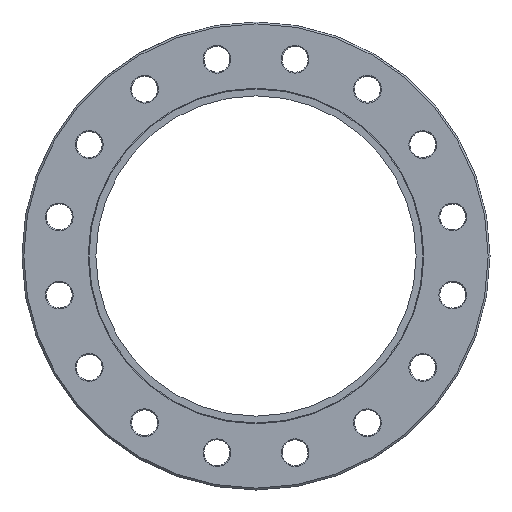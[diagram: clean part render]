
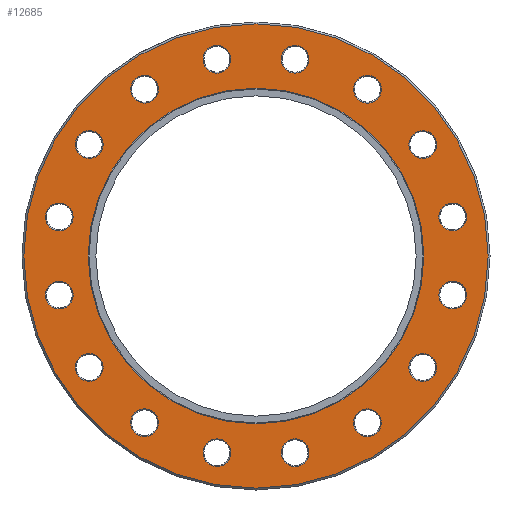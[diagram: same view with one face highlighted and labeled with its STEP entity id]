
A CAD part, left-side view. The second image highlights one B-rep face of the part: STEP entity #12685.
In plain terms, the highlighted planar face has unit normal (-1, 0, 0).
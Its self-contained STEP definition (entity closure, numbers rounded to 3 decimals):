
#12447=CARTESIAN_POINT('',(-20.,75.4,0.));
#12448=VERTEX_POINT('',#12447);
#12449=CARTESIAN_POINT('',(-20.,0.,0.0));
#12450=DIRECTION('',(1.0,0.0,0.0));
#12451=DIRECTION('',(0.0,-1.0,0.0));
#12452=AXIS2_PLACEMENT_3D('',#12449,#12450,#12451);
#12453=CIRCLE('',#12452,75.4);
#12454=EDGE_CURVE('',#12448,#12448,#12453,.T.);
#12490=CARTESIAN_POINT('',(-20.,65.25,0.0));
#12491=DIRECTION('',(-1.0,0.0,0.0));
#12492=DIRECTION('',(0.0,0.0,1.0));
#12493=AXIS2_PLACEMENT_3D('',#12490,#12491,#12492);
#12494=PLANE('',#12493);
#12495=ORIENTED_EDGE('',*,*,#12454,.F.);
#12496=EDGE_LOOP('',(#12495));
#12497=FACE_OUTER_BOUND('',#12496,.T.);
#12498=CARTESIAN_POINT('',(-20.,55.892,-32.038));
#12499=VERTEX_POINT('',#12498);
#12500=CARTESIAN_POINT('',(-20.,54.17,-36.195));
#12501=DIRECTION('',(-1.,0.,0.));
#12502=DIRECTION('',(0.,-0.383,-0.924));
#12503=AXIS2_PLACEMENT_3D('',#12500,#12501,#12502);
#12504=CIRCLE('',#12503,4.5);
#12505=EDGE_CURVE('',#12499,#12499,#12504,.T.);
#12506=ORIENTED_EDGE('',*,*,#12505,.F.);
#12507=EDGE_LOOP('',(#12506));
#12508=FACE_BOUND('',#12507,.T.);
#12509=CARTESIAN_POINT('',(-20.,16.868,-62.176));
#12510=VERTEX_POINT('',#12509);
#12511=CARTESIAN_POINT('',(-20.,12.71,-63.898));
#12512=DIRECTION('',(-1.,0.,0.));
#12513=DIRECTION('',(0.,-0.924,-0.383));
#12514=AXIS2_PLACEMENT_3D('',#12511,#12512,#12513);
#12515=CIRCLE('',#12514,4.5);
#12516=EDGE_CURVE('',#12510,#12510,#12515,.T.);
#12517=ORIENTED_EDGE('',*,*,#12516,.F.);
#12518=EDGE_LOOP('',(#12517));
#12519=FACE_BOUND('',#12518,.T.);
#12520=CARTESIAN_POINT('',(-20.,-32.038,-55.892));
#12521=VERTEX_POINT('',#12520);
#12522=CARTESIAN_POINT('',(-20.,-36.195,-54.17));
#12523=DIRECTION('',(-1.,0.,0.));
#12524=DIRECTION('',(0.,-0.924,0.383));
#12525=AXIS2_PLACEMENT_3D('',#12522,#12523,#12524);
#12526=CIRCLE('',#12525,4.5);
#12527=EDGE_CURVE('',#12521,#12521,#12526,.T.);
#12528=ORIENTED_EDGE('',*,*,#12527,.F.);
#12529=EDGE_LOOP('',(#12528));
#12530=FACE_BOUND('',#12529,.T.);
#12531=CARTESIAN_POINT('',(-20.,-62.176,-16.868));
#12532=VERTEX_POINT('',#12531);
#12533=CARTESIAN_POINT('',(-20.,-63.898,-12.71));
#12534=DIRECTION('',(-1.,0.,0.));
#12535=DIRECTION('',(0.,-0.383,0.924));
#12536=AXIS2_PLACEMENT_3D('',#12533,#12534,#12535);
#12537=CIRCLE('',#12536,4.5);
#12538=EDGE_CURVE('',#12532,#12532,#12537,.T.);
#12539=ORIENTED_EDGE('',*,*,#12538,.F.);
#12540=EDGE_LOOP('',(#12539));
#12541=FACE_BOUND('',#12540,.T.);
#12542=CARTESIAN_POINT('',(-20.,-55.892,32.038));
#12543=VERTEX_POINT('',#12542);
#12544=CARTESIAN_POINT('',(-20.,-54.17,36.195));
#12545=DIRECTION('',(-1.0,0.,0.));
#12546=DIRECTION('',(0.,0.383,0.924));
#12547=AXIS2_PLACEMENT_3D('',#12544,#12545,#12546);
#12548=CIRCLE('',#12547,4.5);
#12549=EDGE_CURVE('',#12543,#12543,#12548,.T.);
#12550=ORIENTED_EDGE('',*,*,#12549,.F.);
#12551=EDGE_LOOP('',(#12550));
#12552=FACE_BOUND('',#12551,.T.);
#12553=CARTESIAN_POINT('',(-20.0,-16.868,62.176));
#12554=VERTEX_POINT('',#12553);
#12555=CARTESIAN_POINT('',(-20.0,-12.71,63.898));
#12556=DIRECTION('',(-1.0,0.,0.));
#12557=DIRECTION('',(0.,0.924,0.383));
#12558=AXIS2_PLACEMENT_3D('',#12555,#12556,#12557);
#12559=CIRCLE('',#12558,4.5);
#12560=EDGE_CURVE('',#12554,#12554,#12559,.T.);
#12561=ORIENTED_EDGE('',*,*,#12560,.F.);
#12562=EDGE_LOOP('',(#12561));
#12563=FACE_BOUND('',#12562,.T.);
#12564=CARTESIAN_POINT('',(-20.,32.038,55.892));
#12565=VERTEX_POINT('',#12564);
#12566=CARTESIAN_POINT('',(-20.,36.195,54.17));
#12567=DIRECTION('',(-1.0,0.,0.));
#12568=DIRECTION('',(0.,0.924,-0.383));
#12569=AXIS2_PLACEMENT_3D('',#12566,#12567,#12568);
#12570=CIRCLE('',#12569,4.5);
#12571=EDGE_CURVE('',#12565,#12565,#12570,.T.);
#12572=ORIENTED_EDGE('',*,*,#12571,.F.);
#12573=EDGE_LOOP('',(#12572));
#12574=FACE_BOUND('',#12573,.T.);
#12575=CARTESIAN_POINT('',(-20.,62.176,16.868));
#12576=VERTEX_POINT('',#12575);
#12577=CARTESIAN_POINT('',(-20.,63.898,12.71));
#12578=DIRECTION('',(-1.,0.,0.));
#12579=DIRECTION('',(0.,0.383,-0.924));
#12580=AXIS2_PLACEMENT_3D('',#12577,#12578,#12579);
#12581=CIRCLE('',#12580,4.5);
#12582=EDGE_CURVE('',#12576,#12576,#12581,.T.);
#12583=ORIENTED_EDGE('',*,*,#12582,.F.);
#12584=EDGE_LOOP('',(#12583));
#12585=FACE_BOUND('',#12584,.T.);
#12586=CARTESIAN_POINT('',(-20.,54.5,0.0));
#12587=VERTEX_POINT('',#12586);
#12588=CARTESIAN_POINT('',(-20.,0.,0.0));
#12589=DIRECTION('',(1.0,0.0,0.0));
#12590=DIRECTION('',(0.0,1.0,0.0));
#12591=AXIS2_PLACEMENT_3D('',#12588,#12589,#12590);
#12592=CIRCLE('',#12591,54.5);
#12593=EDGE_CURVE('',#12587,#12587,#12592,.T.);
#12594=ORIENTED_EDGE('',*,*,#12593,.T.);
#12595=EDGE_LOOP('',(#12594));
#12596=FACE_BOUND('',#12595,.T.);
#12597=CARTESIAN_POINT('',(-20.,63.898,-8.21));
#12598=VERTEX_POINT('',#12597);
#12599=CARTESIAN_POINT('',(-20.,63.898,-12.71));
#12600=DIRECTION('',(-1.0,0.0,0.0));
#12601=DIRECTION('',(0.0,0.0,-1.0));
#12602=AXIS2_PLACEMENT_3D('',#12599,#12600,#12601);
#12603=CIRCLE('',#12602,4.5);
#12604=EDGE_CURVE('',#12598,#12598,#12603,.T.);
#12605=ORIENTED_EDGE('',*,*,#12604,.F.);
#12606=EDGE_LOOP('',(#12605));
#12607=FACE_BOUND('',#12606,.T.);
#12608=CARTESIAN_POINT('',(-20.,50.988,39.377));
#12609=VERTEX_POINT('',#12608);
#12610=CARTESIAN_POINT('',(-20.,54.17,36.195));
#12611=DIRECTION('',(-1.,0.,0.));
#12612=DIRECTION('',(0.,0.707,-0.707));
#12613=AXIS2_PLACEMENT_3D('',#12610,#12611,#12612);
#12614=CIRCLE('',#12613,4.5);
#12615=EDGE_CURVE('',#12609,#12609,#12614,.T.);
#12616=ORIENTED_EDGE('',*,*,#12615,.F.);
#12617=EDGE_LOOP('',(#12616));
#12618=FACE_BOUND('',#12617,.T.);
#12619=CARTESIAN_POINT('',(-20.,8.21,63.898));
#12620=VERTEX_POINT('',#12619);
#12621=CARTESIAN_POINT('',(-20.,12.71,63.898));
#12622=DIRECTION('',(-1.0,0.0,0.0));
#12623=DIRECTION('',(0.0,1.0,0.0));
#12624=AXIS2_PLACEMENT_3D('',#12621,#12622,#12623);
#12625=CIRCLE('',#12624,4.5);
#12626=EDGE_CURVE('',#12620,#12620,#12625,.T.);
#12627=ORIENTED_EDGE('',*,*,#12626,.F.);
#12628=EDGE_LOOP('',(#12627));
#12629=FACE_BOUND('',#12628,.T.);
#12630=CARTESIAN_POINT('',(-20.,-39.377,50.988));
#12631=VERTEX_POINT('',#12630);
#12632=CARTESIAN_POINT('',(-20.,-36.195,54.17));
#12633=DIRECTION('',(-1.,0.,0.));
#12634=DIRECTION('',(0.,0.707,0.707));
#12635=AXIS2_PLACEMENT_3D('',#12632,#12633,#12634);
#12636=CIRCLE('',#12635,4.5);
#12637=EDGE_CURVE('',#12631,#12631,#12636,.T.);
#12638=ORIENTED_EDGE('',*,*,#12637,.F.);
#12639=EDGE_LOOP('',(#12638));
#12640=FACE_BOUND('',#12639,.T.);
#12641=CARTESIAN_POINT('',(-20.,-63.898,8.21));
#12642=VERTEX_POINT('',#12641);
#12643=CARTESIAN_POINT('',(-20.,-63.898,12.71));
#12644=DIRECTION('',(-1.0,0.0,0.0));
#12645=DIRECTION('',(0.0,0.0,1.0));
#12646=AXIS2_PLACEMENT_3D('',#12643,#12644,#12645);
#12647=CIRCLE('',#12646,4.5);
#12648=EDGE_CURVE('',#12642,#12642,#12647,.T.);
#12649=ORIENTED_EDGE('',*,*,#12648,.F.);
#12650=EDGE_LOOP('',(#12649));
#12651=FACE_BOUND('',#12650,.T.);
#12652=CARTESIAN_POINT('',(-20.,-50.988,-39.377));
#12653=VERTEX_POINT('',#12652);
#12654=CARTESIAN_POINT('',(-20.,-54.17,-36.195));
#12655=DIRECTION('',(-1.0,0.,0.));
#12656=DIRECTION('',(0.,-0.707,0.707));
#12657=AXIS2_PLACEMENT_3D('',#12654,#12655,#12656);
#12658=CIRCLE('',#12657,4.5);
#12659=EDGE_CURVE('',#12653,#12653,#12658,.T.);
#12660=ORIENTED_EDGE('',*,*,#12659,.F.);
#12661=EDGE_LOOP('',(#12660));
#12662=FACE_BOUND('',#12661,.T.);
#12663=CARTESIAN_POINT('',(-20.0,-8.21,-63.898));
#12664=VERTEX_POINT('',#12663);
#12665=CARTESIAN_POINT('',(-20.0,-12.71,-63.898));
#12666=DIRECTION('',(-1.0,0.0,0.0));
#12667=DIRECTION('',(0.0,-1.0,0.0));
#12668=AXIS2_PLACEMENT_3D('',#12665,#12666,#12667);
#12669=CIRCLE('',#12668,4.5);
#12670=EDGE_CURVE('',#12664,#12664,#12669,.T.);
#12671=ORIENTED_EDGE('',*,*,#12670,.F.);
#12672=EDGE_LOOP('',(#12671));
#12673=FACE_BOUND('',#12672,.T.);
#12674=CARTESIAN_POINT('',(-20.,39.377,-50.988));
#12675=VERTEX_POINT('',#12674);
#12676=CARTESIAN_POINT('',(-20.,36.195,-54.17));
#12677=DIRECTION('',(-1.0,0.,0.));
#12678=DIRECTION('',(0.,-0.707,-0.707));
#12679=AXIS2_PLACEMENT_3D('',#12676,#12677,#12678);
#12680=CIRCLE('',#12679,4.5);
#12681=EDGE_CURVE('',#12675,#12675,#12680,.T.);
#12682=ORIENTED_EDGE('',*,*,#12681,.F.);
#12683=EDGE_LOOP('',(#12682));
#12684=FACE_BOUND('',#12683,.T.);
#12685=ADVANCED_FACE('',(#12497,#12508,#12519,#12530,#12541,#12552,#12563,#12574,#12585,#12596,#12607,#12618,#12629,#12640,#12651,#12662,#12673,#12684),#12494,.T.);
